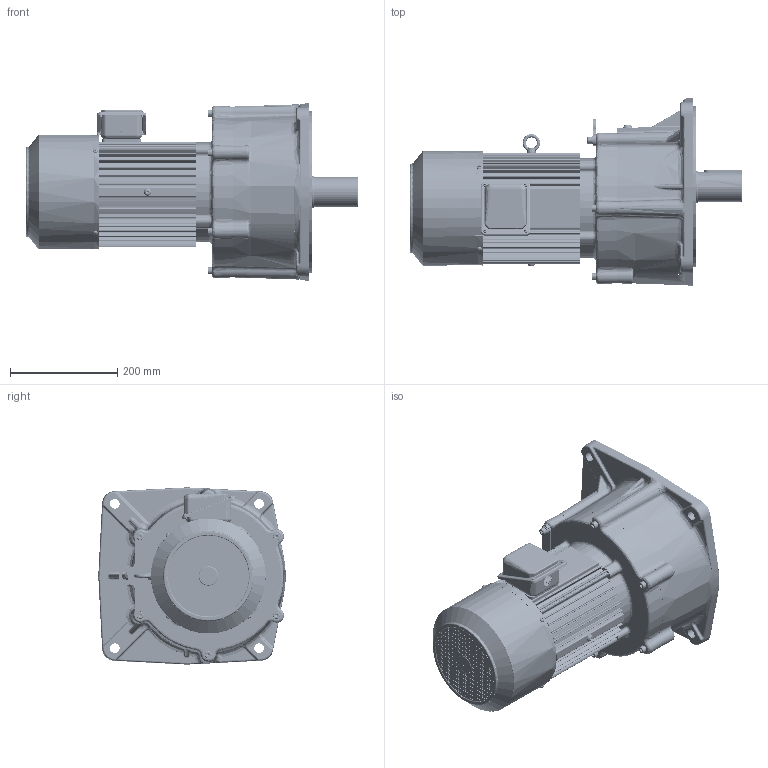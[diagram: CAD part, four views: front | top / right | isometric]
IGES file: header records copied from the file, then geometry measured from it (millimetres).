
Start section: SolidWorks IGES file using analytic representation for surfaces
Global section: file name: \\100.100.100.8\1_共有作業フォルダ\1-5_３Ｄデータ\solidworks\personal-folder\H.Nagayama\SGP1外形_075~370\P1(3D)_075~370\igs\TMFB2-22-(30~80).IGS; native system: SolidWorks 2018; preprocessor: SolidWorks 2018; author: user; date: 210309.140139; units: millimetre
Bounding box: 618 x 349 x 330 mm (x, y, z)
Surface area: 1192536.7 mm2 (no closed solid volume)
Topology: 0 solids, 0 shells, 3583 faces, 39475 edges, 39364 vertices
Faces by surface type: bspline 1884, revolution 1699
